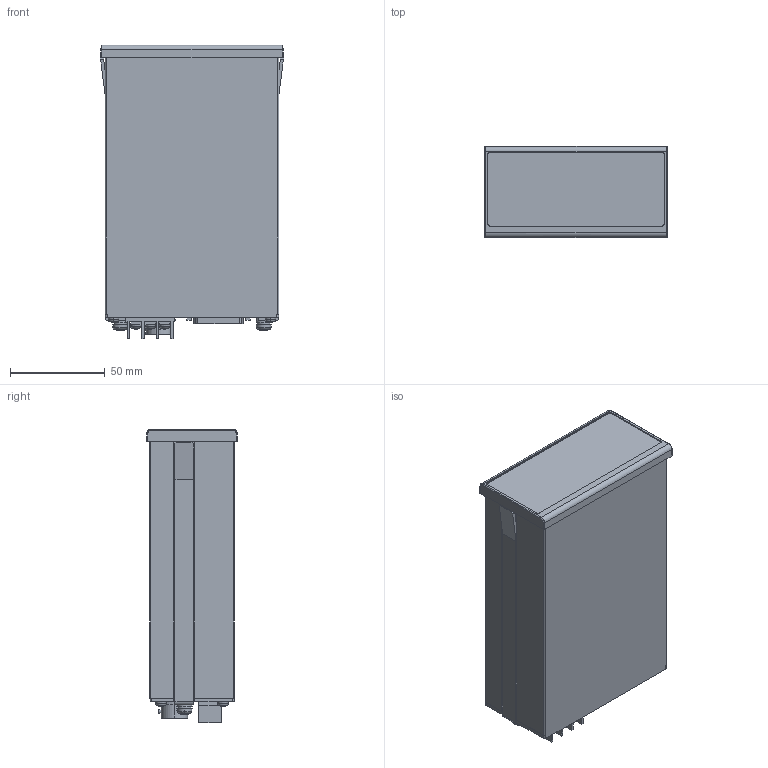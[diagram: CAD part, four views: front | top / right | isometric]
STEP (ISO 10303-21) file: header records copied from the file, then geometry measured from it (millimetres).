
FILE_DESCRIPTION(('Creo Elements/Direct Modeling STEP Export'),'2;1');
FILE_NAME('EG-101P.stp','2017-05-29T18:36:43',(''),(''),'Creo Elements/Direct Modeling STEP processor for AP214 (Solid Model)','Creo Elements/Direct Modeling 18.1B 29-Sep-2012 (C) Parametric Technology GmbH','');
FILE_SCHEMA(('AUTOMOTIVE_DESIGN { 1 0 10303 214 1 1 1 1 }'));
Length unit declared in the file: millimetre
Products named in the file (1): EGカウンタ外観
Bounding box: 96.48 x 48 x 154.6 mm (x, y, z)
Volume: 584216.7 mm3; surface area: 58228.6 mm2
Topology: 1 solids, 1 shells, 603 faces, 1654 edges, 1076 vertices
Faces by surface type: plane 445, cylinder 100, sphere 18, torus 18, cone 18, bspline 4
Entity records: 21808 total; most frequent: CARTESIAN_POINT 5688, ORIENTED_EDGE 3308, DIRECTION 2878, EDGE_CURVE 1654, VECTOR 1146, LINE 1146, VERTEX_POINT 1076, AXIS2_PLACEMENT_3D 866
